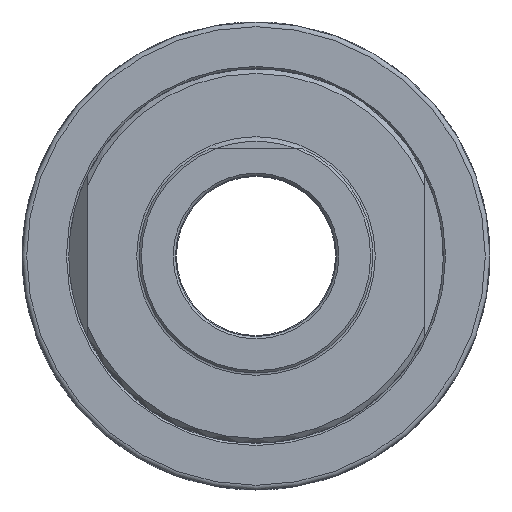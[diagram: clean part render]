
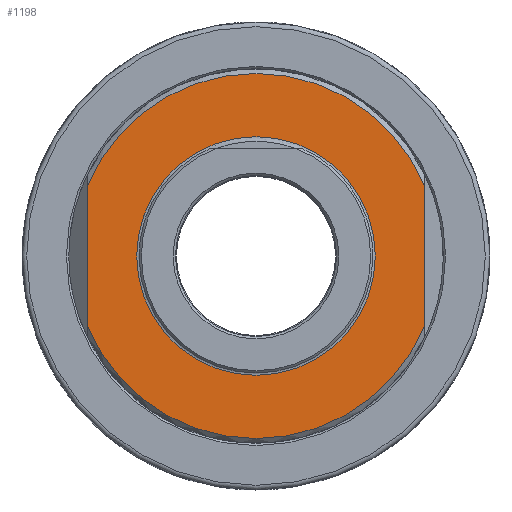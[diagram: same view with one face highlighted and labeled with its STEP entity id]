
A CAD part, left-side view. The second image highlights one B-rep face of the part: STEP entity #1198.
In plain terms, the highlighted planar face has unit normal (-1, 0, 0).
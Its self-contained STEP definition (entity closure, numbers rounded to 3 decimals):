
#149=FACE_BOUND('',#268,.T.);
#160=PLANE('',#1349);
#197=FACE_OUTER_BOUND('',#267,.T.);
#267=EDGE_LOOP('',(#853,#854,#855,#856));
#268=EDGE_LOOP('',(#857));
#342=LINE('',#1854,#412);
#346=LINE('',#1866,#416);
#412=VECTOR('',#1504,10.);
#416=VECTOR('',#1510,10.);
#486=CIRCLE('',#1347,19.5);
#487=CIRCLE('',#1350,19.5);
#488=CIRCLE('',#1351,12.75);
#547=VERTEX_POINT('',#1840);
#550=VERTEX_POINT('',#1847);
#551=VERTEX_POINT('',#1853);
#555=VERTEX_POINT('',#1865);
#556=VERTEX_POINT('',#1868);
#667=EDGE_CURVE('',#550,#547,#486,.T.);
#668=EDGE_CURVE('',#551,#547,#342,.T.);
#673=EDGE_CURVE('',#550,#555,#346,.T.);
#674=EDGE_CURVE('',#551,#555,#487,.T.);
#675=EDGE_CURVE('',#556,#556,#488,.T.);
#853=ORIENTED_EDGE('',*,*,#667,.F.);
#854=ORIENTED_EDGE('',*,*,#673,.T.);
#855=ORIENTED_EDGE('',*,*,#674,.F.);
#856=ORIENTED_EDGE('',*,*,#668,.T.);
#857=ORIENTED_EDGE('',*,*,#675,.F.);
#1198=ADVANCED_FACE('',(#197,#149),#160,.T.);
#1347=AXIS2_PLACEMENT_3D('',#1851,#1500,#1501);
#1349=AXIS2_PLACEMENT_3D('',#1864,#1508,#1509);
#1350=AXIS2_PLACEMENT_3D('',#1867,#1511,#1512);
#1351=AXIS2_PLACEMENT_3D('',#1869,#1513,#1514);
#1500=DIRECTION('center_axis',(1.,0.,0.));
#1501=DIRECTION('ref_axis',(0.,-1.,0.));
#1504=DIRECTION('',(0.,0.,-1.));
#1508=DIRECTION('center_axis',(-1.,0.,0.));
#1509=DIRECTION('ref_axis',(0.,0.,1.));
#1510=DIRECTION('',(0.,0.,1.));
#1511=DIRECTION('center_axis',(1.,0.,0.));
#1512=DIRECTION('ref_axis',(0.,-1.,0.));
#1513=DIRECTION('center_axis',(-1.,0.,0.));
#1514=DIRECTION('ref_axis',(0.,1.,0.));
#1840=CARTESIAN_POINT('',(80.,18.,-7.5));
#1847=CARTESIAN_POINT('',(80.,-18.,-7.5));
#1851=CARTESIAN_POINT('Origin',(80.,0.,0.));
#1853=CARTESIAN_POINT('',(80.,18.,7.5));
#1854=CARTESIAN_POINT('',(80.,18.,0.));
#1864=CARTESIAN_POINT('Origin',(80.,-20.,0.));
#1865=CARTESIAN_POINT('',(80.,-18.,7.5));
#1866=CARTESIAN_POINT('',(80.,-18.,0.));
#1867=CARTESIAN_POINT('Origin',(80.,0.,0.));
#1868=CARTESIAN_POINT('',(80.,0.,12.75));
#1869=CARTESIAN_POINT('Origin',(80.,0.,0.));
